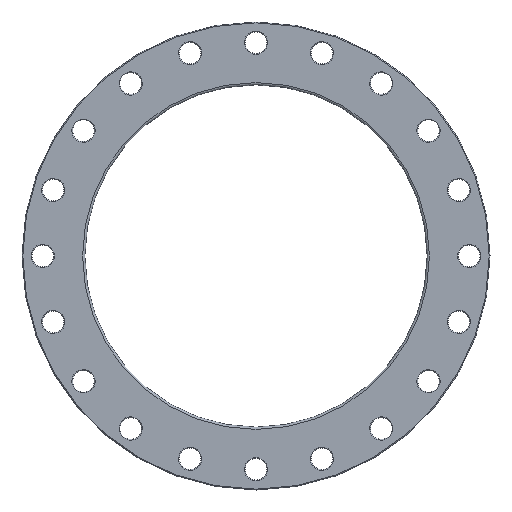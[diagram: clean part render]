
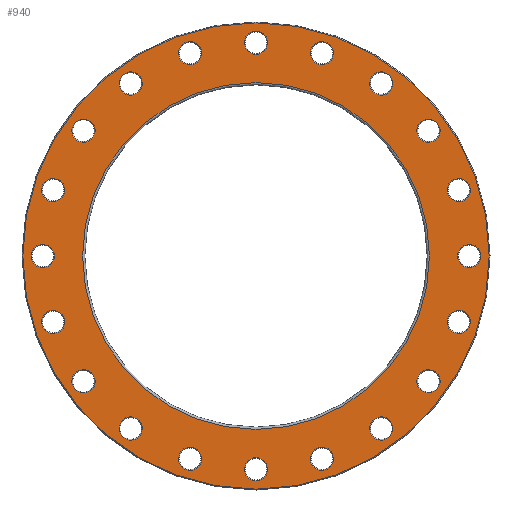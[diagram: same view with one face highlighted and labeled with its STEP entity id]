
A CAD part, front view. The second image highlights one B-rep face of the part: STEP entity #940.
In plain terms, the highlighted planar face has unit normal (0, -1, 0).
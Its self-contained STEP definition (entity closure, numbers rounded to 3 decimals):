
#23=PLANE('',#1104);
#206=ORIENTED_EDGE('',*,*,#325,.T.);
#207=ORIENTED_EDGE('',*,*,#326,.T.);
#208=ORIENTED_EDGE('',*,*,#244,.T.);
#209=ORIENTED_EDGE('',*,*,#248,.T.);
#210=ORIENTED_EDGE('',*,*,#252,.T.);
#211=ORIENTED_EDGE('',*,*,#256,.T.);
#212=ORIENTED_EDGE('',*,*,#260,.T.);
#213=ORIENTED_EDGE('',*,*,#264,.T.);
#214=ORIENTED_EDGE('',*,*,#268,.T.);
#215=ORIENTED_EDGE('',*,*,#272,.T.);
#216=ORIENTED_EDGE('',*,*,#276,.T.);
#217=ORIENTED_EDGE('',*,*,#280,.T.);
#218=ORIENTED_EDGE('',*,*,#284,.T.);
#219=ORIENTED_EDGE('',*,*,#288,.T.);
#220=ORIENTED_EDGE('',*,*,#292,.T.);
#221=ORIENTED_EDGE('',*,*,#296,.T.);
#222=ORIENTED_EDGE('',*,*,#300,.T.);
#223=ORIENTED_EDGE('',*,*,#304,.T.);
#224=ORIENTED_EDGE('',*,*,#308,.T.);
#225=ORIENTED_EDGE('',*,*,#312,.T.);
#226=ORIENTED_EDGE('',*,*,#316,.T.);
#227=ORIENTED_EDGE('',*,*,#327,.T.);
#244=EDGE_CURVE('',#332,#332,#420,.T.);
#248=EDGE_CURVE('',#336,#336,#424,.T.);
#252=EDGE_CURVE('',#340,#340,#428,.T.);
#256=EDGE_CURVE('',#344,#344,#432,.T.);
#260=EDGE_CURVE('',#348,#348,#436,.T.);
#264=EDGE_CURVE('',#352,#352,#440,.T.);
#268=EDGE_CURVE('',#356,#356,#444,.T.);
#272=EDGE_CURVE('',#360,#360,#448,.T.);
#276=EDGE_CURVE('',#364,#364,#452,.T.);
#280=EDGE_CURVE('',#368,#368,#456,.T.);
#284=EDGE_CURVE('',#372,#372,#460,.T.);
#288=EDGE_CURVE('',#376,#376,#464,.T.);
#292=EDGE_CURVE('',#380,#380,#468,.T.);
#296=EDGE_CURVE('',#384,#384,#472,.T.);
#300=EDGE_CURVE('',#388,#388,#476,.T.);
#304=EDGE_CURVE('',#392,#392,#480,.T.);
#308=EDGE_CURVE('',#396,#396,#484,.T.);
#312=EDGE_CURVE('',#400,#400,#488,.T.);
#316=EDGE_CURVE('',#404,#404,#492,.T.);
#325=EDGE_CURVE('',#413,#413,#501,.F.);
#326=EDGE_CURVE('',#414,#414,#502,.T.);
#327=EDGE_CURVE('',#415,#415,#503,.T.);
#332=VERTEX_POINT('',#1439);
#336=VERTEX_POINT('',#1450);
#340=VERTEX_POINT('',#1461);
#344=VERTEX_POINT('',#1472);
#348=VERTEX_POINT('',#1483);
#352=VERTEX_POINT('',#1494);
#356=VERTEX_POINT('',#1505);
#360=VERTEX_POINT('',#1516);
#364=VERTEX_POINT('',#1527);
#368=VERTEX_POINT('',#1538);
#372=VERTEX_POINT('',#1549);
#376=VERTEX_POINT('',#1560);
#380=VERTEX_POINT('',#1571);
#384=VERTEX_POINT('',#1582);
#388=VERTEX_POINT('',#1593);
#392=VERTEX_POINT('',#1604);
#396=VERTEX_POINT('',#1615);
#400=VERTEX_POINT('',#1626);
#404=VERTEX_POINT('',#1637);
#413=VERTEX_POINT('',#1660);
#414=VERTEX_POINT('',#1662);
#415=VERTEX_POINT('',#1664);
#420=CIRCLE('',#965,21.);
#424=CIRCLE('',#972,21.);
#428=CIRCLE('',#979,21.);
#432=CIRCLE('',#986,21.);
#436=CIRCLE('',#993,21.);
#440=CIRCLE('',#1000,21.);
#444=CIRCLE('',#1007,21.);
#448=CIRCLE('',#1014,21.);
#452=CIRCLE('',#1021,21.);
#456=CIRCLE('',#1028,21.);
#460=CIRCLE('',#1035,21.);
#464=CIRCLE('',#1042,21.);
#468=CIRCLE('',#1049,21.);
#472=CIRCLE('',#1056,21.);
#476=CIRCLE('',#1063,21.);
#480=CIRCLE('',#1070,21.);
#484=CIRCLE('',#1077,21.);
#488=CIRCLE('',#1084,21.);
#492=CIRCLE('',#1091,21.);
#501=CIRCLE('',#1105,421.);
#502=CIRCLE('',#1106,313.);
#503=CIRCLE('',#1107,21.);
#646=EDGE_LOOP('',(#206));
#647=EDGE_LOOP('',(#207));
#648=EDGE_LOOP('',(#208));
#649=EDGE_LOOP('',(#209));
#650=EDGE_LOOP('',(#210));
#651=EDGE_LOOP('',(#211));
#652=EDGE_LOOP('',(#212));
#653=EDGE_LOOP('',(#213));
#654=EDGE_LOOP('',(#214));
#655=EDGE_LOOP('',(#215));
#656=EDGE_LOOP('',(#216));
#657=EDGE_LOOP('',(#217));
#658=EDGE_LOOP('',(#218));
#659=EDGE_LOOP('',(#219));
#660=EDGE_LOOP('',(#220));
#661=EDGE_LOOP('',(#221));
#662=EDGE_LOOP('',(#222));
#663=EDGE_LOOP('',(#223));
#664=EDGE_LOOP('',(#224));
#665=EDGE_LOOP('',(#225));
#666=EDGE_LOOP('',(#226));
#667=EDGE_LOOP('',(#227));
#822=FACE_BOUND('',#646,.T.);
#823=FACE_BOUND('',#647,.T.);
#824=FACE_BOUND('',#648,.T.);
#825=FACE_BOUND('',#649,.T.);
#826=FACE_BOUND('',#650,.T.);
#827=FACE_BOUND('',#651,.T.);
#828=FACE_BOUND('',#652,.T.);
#829=FACE_BOUND('',#653,.T.);
#830=FACE_BOUND('',#654,.T.);
#831=FACE_BOUND('',#655,.T.);
#832=FACE_BOUND('',#656,.T.);
#833=FACE_BOUND('',#657,.T.);
#834=FACE_BOUND('',#658,.T.);
#835=FACE_BOUND('',#659,.T.);
#836=FACE_BOUND('',#660,.T.);
#837=FACE_BOUND('',#661,.T.);
#838=FACE_BOUND('',#662,.T.);
#839=FACE_BOUND('',#663,.T.);
#840=FACE_BOUND('',#664,.T.);
#841=FACE_BOUND('',#665,.T.);
#842=FACE_BOUND('',#666,.T.);
#843=FACE_BOUND('',#667,.T.);
#940=ADVANCED_FACE('',(#822,#823,#824,#825,#826,#827,#828,#829,#830,#831,
#832,#833,#834,#835,#836,#837,#838,#839,#840,#841,#842,#843),#23,.F.);
#965=AXIS2_PLACEMENT_3D('',#1438,#1127,#1128);
#972=AXIS2_PLACEMENT_3D('',#1449,#1141,#1142);
#979=AXIS2_PLACEMENT_3D('',#1460,#1155,#1156);
#986=AXIS2_PLACEMENT_3D('',#1471,#1169,#1170);
#993=AXIS2_PLACEMENT_3D('',#1482,#1183,#1184);
#1000=AXIS2_PLACEMENT_3D('',#1493,#1197,#1198);
#1007=AXIS2_PLACEMENT_3D('',#1504,#1211,#1212);
#1014=AXIS2_PLACEMENT_3D('',#1515,#1225,#1226);
#1021=AXIS2_PLACEMENT_3D('',#1526,#1239,#1240);
#1028=AXIS2_PLACEMENT_3D('',#1537,#1253,#1254);
#1035=AXIS2_PLACEMENT_3D('',#1548,#1267,#1268);
#1042=AXIS2_PLACEMENT_3D('',#1559,#1281,#1282);
#1049=AXIS2_PLACEMENT_3D('',#1570,#1295,#1296);
#1056=AXIS2_PLACEMENT_3D('',#1581,#1309,#1310);
#1063=AXIS2_PLACEMENT_3D('',#1592,#1323,#1324);
#1070=AXIS2_PLACEMENT_3D('',#1603,#1337,#1338);
#1077=AXIS2_PLACEMENT_3D('',#1614,#1351,#1352);
#1084=AXIS2_PLACEMENT_3D('',#1625,#1365,#1366);
#1091=AXIS2_PLACEMENT_3D('',#1636,#1379,#1380);
#1104=AXIS2_PLACEMENT_3D('',#1658,#1405,#1406);
#1105=AXIS2_PLACEMENT_3D('',#1659,#1407,#1408);
#1106=AXIS2_PLACEMENT_3D('',#1661,#1409,#1410);
#1107=AXIS2_PLACEMENT_3D('',#1663,#1411,#1412);
#1127=DIRECTION('',(0.,1.,0.));
#1128=DIRECTION('',(0.951,0.,0.309));
#1141=DIRECTION('',(0.,1.,0.));
#1142=DIRECTION('',(0.809,0.,0.588));
#1155=DIRECTION('',(0.,1.,0.));
#1156=DIRECTION('',(0.588,0.,0.809));
#1169=DIRECTION('',(0.,1.,0.));
#1170=DIRECTION('',(0.309,0.,0.951));
#1183=DIRECTION('',(0.,1.,0.));
#1184=DIRECTION('',(0.,0.,1.));
#1197=DIRECTION('',(0.,1.,0.));
#1198=DIRECTION('',(-0.309,0.,0.951));
#1211=DIRECTION('',(0.,1.,0.));
#1212=DIRECTION('',(-0.588,0.,0.809));
#1225=DIRECTION('',(0.,1.,0.));
#1226=DIRECTION('',(-0.809,0.,0.588));
#1239=DIRECTION('',(0.,1.,0.));
#1240=DIRECTION('',(-0.951,0.,0.309));
#1253=DIRECTION('',(0.,1.,0.));
#1254=DIRECTION('',(-1.,0.,0.));
#1267=DIRECTION('',(0.,1.,0.));
#1268=DIRECTION('',(-0.951,0.,-0.309));
#1281=DIRECTION('',(0.,1.,0.));
#1282=DIRECTION('',(-0.809,0.,-0.588));
#1295=DIRECTION('',(0.,1.,0.));
#1296=DIRECTION('',(-0.588,0.,-0.809));
#1309=DIRECTION('',(0.,1.,0.));
#1310=DIRECTION('',(-0.309,0.,-0.951));
#1323=DIRECTION('',(0.,1.,0.));
#1324=DIRECTION('',(0.,0.,-1.));
#1337=DIRECTION('',(0.,1.,0.));
#1338=DIRECTION('',(0.309,0.,-0.951));
#1351=DIRECTION('',(0.,1.,0.));
#1352=DIRECTION('',(0.588,0.,-0.809));
#1365=DIRECTION('',(0.,1.,0.));
#1366=DIRECTION('',(0.809,0.,-0.588));
#1379=DIRECTION('',(0.,1.,0.));
#1380=DIRECTION('',(0.951,0.,-0.309));
#1405=DIRECTION('',(0.,1.,0.));
#1406=DIRECTION('',(0.,0.,1.));
#1407=DIRECTION('',(0.,1.,0.));
#1408=DIRECTION('',(0.,0.,1.));
#1409=DIRECTION('',(0.,1.,0.));
#1410=DIRECTION('',(0.,0.,1.));
#1411=DIRECTION('',(0.,1.,0.));
#1412=DIRECTION('',(1.,0.,0.));
#1438=CARTESIAN_POINT('',(-118.972,0.,366.157));
#1439=CARTESIAN_POINT('',(-98.999,0.,372.646));
#1449=CARTESIAN_POINT('',(-226.297,0.,311.472));
#1450=CARTESIAN_POINT('',(-209.308,0.,323.815));
#1460=CARTESIAN_POINT('',(-311.472,0.,226.297));
#1461=CARTESIAN_POINT('',(-299.128,0.,243.287));
#1471=CARTESIAN_POINT('',(-366.157,0.,118.972));
#1472=CARTESIAN_POINT('',(-359.667,0.,138.944));
#1482=CARTESIAN_POINT('',(-385.,0.,0.));
#1483=CARTESIAN_POINT('',(-385.,0.,21.));
#1493=CARTESIAN_POINT('',(-366.157,0.,-118.972));
#1494=CARTESIAN_POINT('',(-372.646,0.,-98.999));
#1504=CARTESIAN_POINT('',(-311.472,0.,-226.297));
#1505=CARTESIAN_POINT('',(-323.815,0.,-209.308));
#1515=CARTESIAN_POINT('',(-226.297,0.,-311.472));
#1516=CARTESIAN_POINT('',(-243.287,0.,-299.128));
#1526=CARTESIAN_POINT('',(-118.972,0.,-366.157));
#1527=CARTESIAN_POINT('',(-138.944,0.,-359.667));
#1537=CARTESIAN_POINT('',(0.,0.,-385.));
#1538=CARTESIAN_POINT('',(-21.,0.,-385.));
#1548=CARTESIAN_POINT('',(118.972,0.,-366.157));
#1549=CARTESIAN_POINT('',(98.999,0.,-372.646));
#1559=CARTESIAN_POINT('',(226.297,0.,-311.472));
#1560=CARTESIAN_POINT('',(209.308,0.,-323.815));
#1570=CARTESIAN_POINT('',(311.472,0.,-226.297));
#1571=CARTESIAN_POINT('',(299.128,0.,-243.287));
#1581=CARTESIAN_POINT('',(366.157,0.,-118.972));
#1582=CARTESIAN_POINT('',(359.667,0.,-138.944));
#1592=CARTESIAN_POINT('',(385.,0.,0.));
#1593=CARTESIAN_POINT('',(385.,0.,-21.));
#1603=CARTESIAN_POINT('',(366.157,0.,118.972));
#1604=CARTESIAN_POINT('',(372.646,0.,98.999));
#1614=CARTESIAN_POINT('',(311.472,0.,226.297));
#1615=CARTESIAN_POINT('',(323.815,0.,209.308));
#1625=CARTESIAN_POINT('',(226.297,0.,311.472));
#1626=CARTESIAN_POINT('',(243.287,0.,299.128));
#1636=CARTESIAN_POINT('',(118.972,0.,366.157));
#1637=CARTESIAN_POINT('',(138.944,0.,359.667));
#1658=CARTESIAN_POINT('',(0.,0.,0.));
#1659=CARTESIAN_POINT('',(0.,0.,0.));
#1660=CARTESIAN_POINT('',(0.,0.,421.));
#1661=CARTESIAN_POINT('',(0.,0.,0.));
#1662=CARTESIAN_POINT('',(0.,0.,313.));
#1663=CARTESIAN_POINT('',(0.,0.,385.));
#1664=CARTESIAN_POINT('',(21.,0.,385.));
